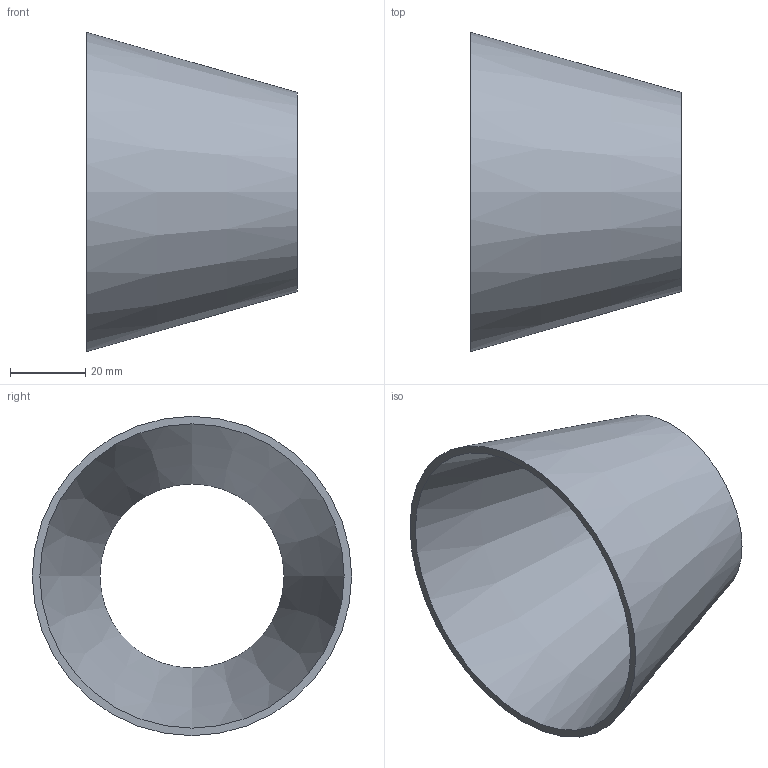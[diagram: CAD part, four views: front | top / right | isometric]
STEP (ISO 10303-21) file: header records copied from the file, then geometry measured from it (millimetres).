
FILE_DESCRIPTION(('FreeCAD Model'),'2;1');
FILE_NAME( '/home/martin/Documents/proyect/accesorios/stp/red-con_DN80-50.step', '2017-12-31T12:23:36',('Author'),(''), 'Open CASCADE STEP processor 6.8','FreeCAD','Unknown');
FILE_SCHEMA(('AUTOMOTIVE_DESIGN_CC2 { 1 2 10303 214 -1 1 5 4 }'));
Length unit declared in the file: millimetre
Products named in the file (1): red-con_DN80-50
Bounding box: 56 x 85 x 85 mm (x, y, z)
Volume: 23574.5 mm3; surface area: 25359.8 mm2
Topology: 1 solids, 1 shells, 4 faces, 6 edges, 4 vertices
Faces by surface type: cone 2, plane 2
Entity records: 191 total; most frequent: CARTESIAN_POINT 33, DIRECTION 26, ORIENTED_EDGE 12, PCURVE 12, DEFINITIONAL_REPRESENTATION 12, AXIS2_PLACEMENT_3D 9, CIRCLE 8, FACE_BOUND 6
